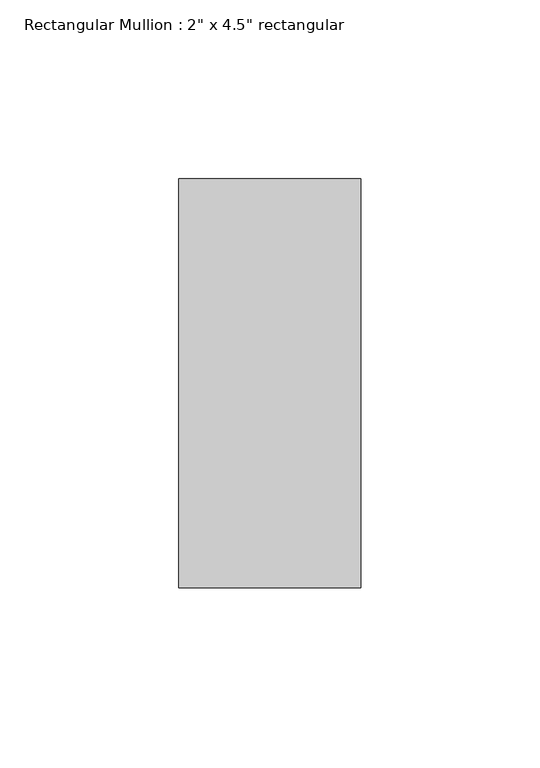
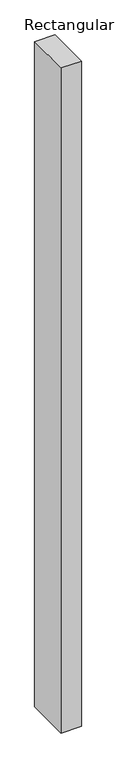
"""IFC4 building model written with IfcOpenShell, lengths in millimetres: member geometry."""

from ifc_helpers import new_model, si_unit, frame, origin, place, context, project, spatial, polyline, outline, extrude, source, transform, mapped, element, save


def member_35b16393(model_context):
    return source(origin(), model_context, "Body", "SweptSolid", [
        extrude(outline(polyline([(25.4, 57.15), (25.4, -57.15), (-25.4, -57.15), (-25.4, 57.15), (25.4, 57.15)])), frame((0.0, 0.0, -1761.0666667), z_axis=(0.0, 0.0, 1.0), x_axis=(1.0, 0.0, 0.0)), (0.0, 0.0, 1.0), 1761.0666667),
    ])


if __name__ == "__main__":
    model = new_model("IFC4")
    model_context = context("Model", 3, world=origin())
    ifc_project = project(units=[si_unit("LENGTHUNIT", "METRE", prefix="MILLI")], contexts=[model_context])
    site = spatial("IfcSite", under=ifc_project)
    building = spatial("IfcBuilding", under=site)
    placement = place(None, origin())
    member_shape = member_35b16393(model_context)
    element("IfcMember", 1, ObjectType="Rectangular Mullion : 2\" x 4.5\" rectangular", at=placement, inside=building, context=model_context, shape_type="MappedRepresentation", body=[
        mapped(member_shape, transform((0.0, 0.0, 0.0), x_axis=(1.0, 0.0, 0.0), y_axis=(0.0, 1.0, 0.0), z_axis=(0.0, 0.0, 1.0))),
    ])
    save(model, "model.ifc")
